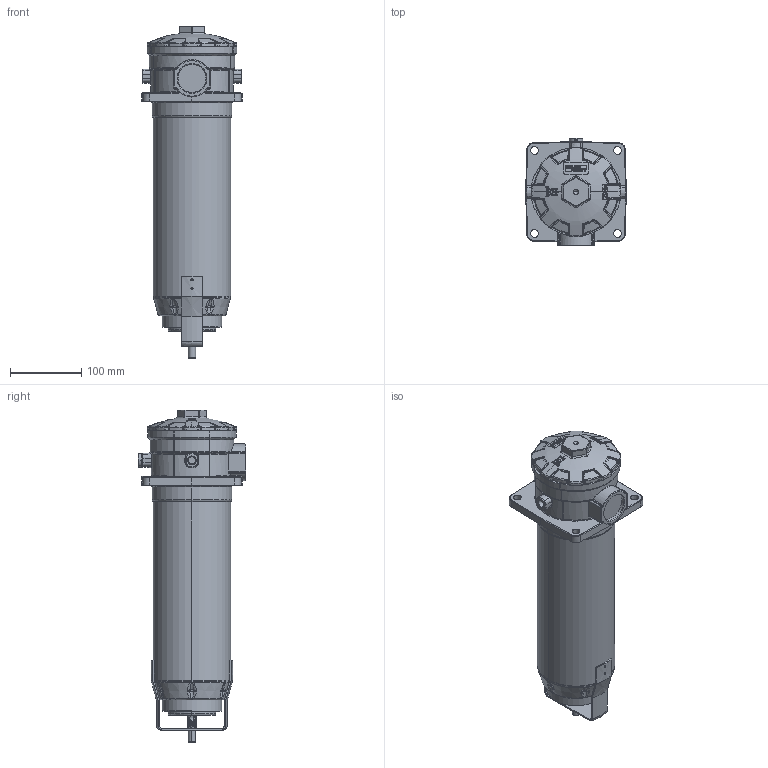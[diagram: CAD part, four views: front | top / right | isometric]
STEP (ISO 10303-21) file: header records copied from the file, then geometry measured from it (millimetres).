
FILE_DESCRIPTION((''),'2;1');
FILE_NAME('1000514660','2024-07-12T10:37:50',('g.topp'),(''),'CREO PARAMETRIC BY PTC INC, 2023254','CREO PARAMETRIC BY PTC INC, 2023254','');
FILE_SCHEMA(('AUTOMOTIVE_DESIGN { 1 0 10303 214 1 1 1 1 }'));
Length unit declared in the file: millimetre
Products named in the file (1): 1000514660
Bounding box: 141.5 x 151.75 x 466.7 mm (x, y, z)
Volume: 4006315.1 mm3; surface area: 249379 mm2
Topology: 1 solids, 11 shells, 1777 faces, 4469 edges, 2740 vertices
Faces by surface type: bspline 553, plane 458, cylinder 264, cone 203, torus 191, sphere 77, extrusion 31
Entity records: 114966 total; most frequent: CARTESIAN_POINT 62560, ORIENTED_EDGE 8870, DIRECTION 7041, PRESENTATION_STYLE_ASSIGNMENT 4480, STYLED_ITEM 4436, CURVE_STYLE 4435, EDGE_CURVE 4435, AXIS2_PLACEMENT_3D 3001
